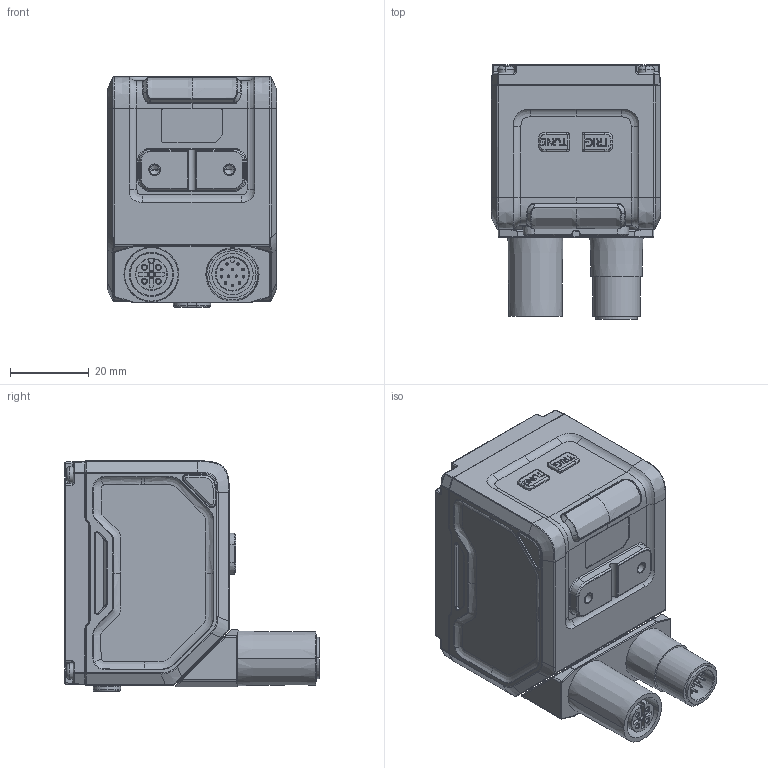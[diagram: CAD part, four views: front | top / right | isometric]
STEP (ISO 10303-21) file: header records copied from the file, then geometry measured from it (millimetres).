
FILE_DESCRIPTION((''),'2;1');
FILE_NAME('0005','2025-11-07T10:05:10',('qinyangfan'),(''),'CREO PARAMETRIC BY PTC INC, 2020044','CREO PARAMETRIC BY PTC INC, 2020044','');
FILE_SCHEMA(('CONFIG_CONTROL_DESIGN'));
Products named in the file (1): 0005
Bounding box: 43 x 64.64 x 58.5 mm (x, y, z)
Volume: 98287.4 mm3; surface area: 27358 mm2
Topology: 2 solids, 29 shells, 1678 faces, 4301 edges, 2718 vertices
Faces by surface type: plane 615, cylinder 565, cone 180, bspline 155, torus 88, extrusion 67, sphere 6, revolution 2
Entity records: 76799 total; most frequent: CARTESIAN_POINT 37201, ORIENTED_EDGE 8468, DIRECTION 7830, EDGE_CURVE 4264, AXIS2_PLACEMENT_3D 2838, VERTEX_POINT 2718, VECTOR 2152, LINE 2085
